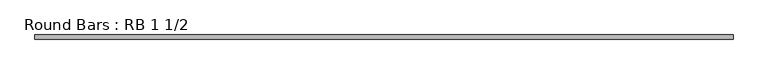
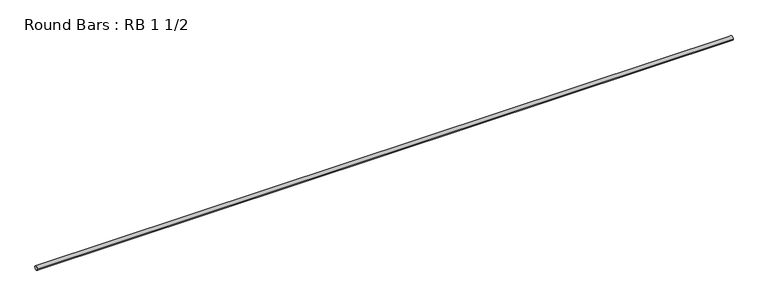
"""IFC4 building model written with IfcOpenShell, lengths in millimetres: member geometry, Round Bars : RB 1 1/2."""

from ifc_helpers import new_model, si_unit, point, frame, origin, origin_2d, place, context, project, spatial, circle_curve, trimmed, segment, composite_curve, outline, extrude, source, transform, mapped, element, save


def round_bars_rb_1_1_2_a3ff04a2(model_context):
    return source(origin(), model_context, "Body", "SweptSolid", [
        extrude(outline(composite_curve([segment(trimmed(circle_curve(origin_2d(), 19.05), [point((19.05, 0.0))], [point((-19.05, 0.0))], False, "CARTESIAN"), True, "CONTINUOUS"), segment(trimmed(circle_curve(origin_2d(), 19.05), [point((-19.05, 0.0))], [point((19.05, 0.0))], False, "CARTESIAN"), True, "CONTINUOUS")], self_intersect=False)), frame((-3207.6277373, 0.0, 0.0), z_axis=(1.0, 0.0, 0.0), x_axis=(0.0, 1.0, 0.0)), (0.0, 0.0, 1.0), 6445.7694717),
    ])


if __name__ == "__main__":
    model = new_model("IFC4")
    model_context = context("Model", 3, world=origin())
    ifc_project = project(units=[si_unit("LENGTHUNIT", "METRE", prefix="MILLI")], contexts=[model_context])
    site = spatial("IfcSite", under=ifc_project)
    building = spatial("IfcBuilding", under=site)
    placement = place(None, origin())
    round_bars_rb_1_1_2_shape = round_bars_rb_1_1_2_a3ff04a2(model_context)
    element("IfcMember", 1, ObjectType="Round Bars : RB 1 1/2", at=placement, inside=building, context=model_context, shape_type="MappedRepresentation", body=[
        mapped(round_bars_rb_1_1_2_shape, transform((0.0, 0.0, 0.0), x_axis=(1.0, 0.0, 0.0), y_axis=(0.0, 1.0, 0.0), z_axis=(0.0, 0.0, 1.0))),
    ])
    save(model, "model.ifc")
